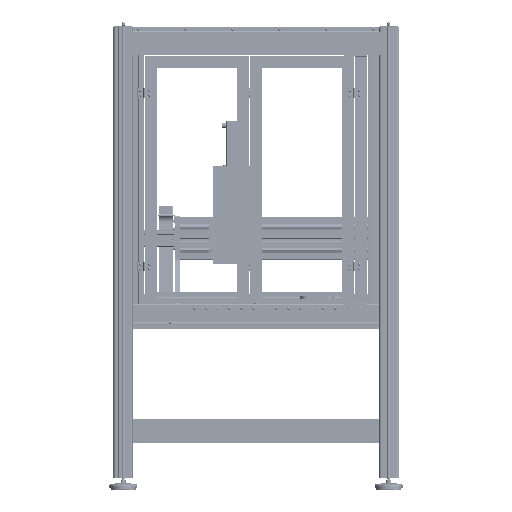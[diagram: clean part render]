
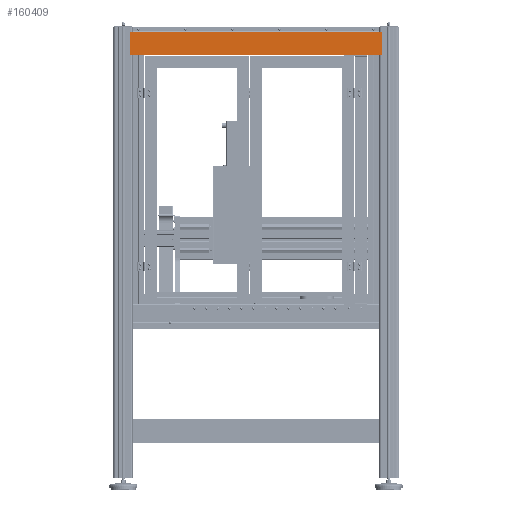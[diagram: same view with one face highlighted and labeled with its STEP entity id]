
A CAD part, top view. The second image highlights one B-rep face of the part: STEP entity #160409.
In plain terms, the highlighted planar face has unit normal (0, 0, 1).
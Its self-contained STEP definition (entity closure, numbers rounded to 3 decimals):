
#12218 = ORIENTED_EDGE ( 'NONE', *, *, #373988, .T. ) ;
#15874 = ORIENTED_EDGE ( 'NONE', *, *, #303480, .T. ) ;
#33881 = DIRECTION ( 'NONE',  ( 1., 0., 0. ) ) ;
#36627 = EDGE_LOOP ( 'NONE', ( #353214, #15874, #203593, #138550, #504336, #12218, #615992, #286641 ) ) ;
#39211 = CARTESIAN_POINT ( 'NONE',  ( -524., 1069.6, 600.499 ) ) ;
#58991 = CARTESIAN_POINT ( 'NONE',  ( 524., 1165.9, 600.499 ) ) ;
#60257 = FACE_OUTER_BOUND ( 'NONE', #36627, .T. ) ;
#81245 = DIRECTION ( 'NONE',  ( 1., 0., 0. ) ) ;
#138550 = ORIENTED_EDGE ( 'NONE', *, *, #326676, .T. ) ;
#151658 = VERTEX_POINT ( 'NONE', #39211 ) ;
#152283 = AXIS2_PLACEMENT_3D ( 'NONE', #673043, #353304, #33881 ) ;
#160409 = ADVANCED_FACE ( 'NONE', ( #60257 ), #619361, .F. ) ;
#160603 = CARTESIAN_POINT ( 'NONE',  ( 534., 1069.6, 600.499 ) ) ;
#165256 = EDGE_CURVE ( 'NONE', #151658, #420683, #261364, .T. ) ;
#182166 = CARTESIAN_POINT ( 'NONE',  ( 524., 1165.9, 600.499 ) ) ;
#203593 = ORIENTED_EDGE ( 'NONE', *, *, #362481, .T. ) ;
#211755 = VERTEX_POINT ( 'NONE', #425844 ) ;
#228961 = CARTESIAN_POINT ( 'NONE',  ( -534., 1069.6, 600.499 ) ) ;
#232720 = EDGE_CURVE ( 'NONE', #408250, #547780, #395429, .T. ) ;
#256009 = DIRECTION ( 'NONE',  ( 1., 0., 0. ) ) ;
#256599 = VECTOR ( 'NONE', #256009, 1000. ) ;
#261364 = LINE ( 'NONE', #521699, #256599 ) ;
#264955 = VERTEX_POINT ( 'NONE', #160603 ) ;
#278412 = LINE ( 'NONE', #58991, #578876 ) ;
#284254 = VECTOR ( 'NONE', #320789, 1000. ) ;
#286641 = ORIENTED_EDGE ( 'NONE', *, *, #501126, .T. ) ;
#295872 = CARTESIAN_POINT ( 'NONE',  ( -524., 1069.6, 600.499 ) ) ;
#300274 = DIRECTION ( 'NONE',  ( 0., 1., 0. ) ) ;
#301606 = CARTESIAN_POINT ( 'NONE',  ( 524., 1069.6, 600.499 ) ) ;
#303480 = EDGE_CURVE ( 'NONE', #420683, #264955, #446032, .T. ) ;
#304226 = VECTOR ( 'NONE', #462462, 1000. ) ;
#320789 = DIRECTION ( 'NONE',  ( 1., 0., 0. ) ) ;
#326676 = EDGE_CURVE ( 'NONE', #679234, #654183, #278412, .T. ) ;
#330518 = CARTESIAN_POINT ( 'NONE',  ( -524., 1165.9, 600.499 ) ) ;
#338526 = DIRECTION ( 'NONE',  ( 0., -1., 0. ) ) ;
#353214 = ORIENTED_EDGE ( 'NONE', *, *, #165256, .T. ) ;
#353304 = DIRECTION ( 'NONE',  ( 0., 0., -1. ) ) ;
#362481 = EDGE_CURVE ( 'NONE', #264955, #679234, #556536, .T. ) ;
#373988 = EDGE_CURVE ( 'NONE', #211755, #408250, #557809, .T. ) ;
#379439 = CARTESIAN_POINT ( 'NONE',  ( 534., 1165.9, 600.499 ) ) ;
#391617 = VECTOR ( 'NONE', #338526, 1000. ) ;
#395429 = LINE ( 'NONE', #228961, #391617 ) ;
#408250 = VERTEX_POINT ( 'NONE', #600589 ) ;
#414704 = VECTOR ( 'NONE', #300274, 1000. ) ;
#419322 = CARTESIAN_POINT ( 'NONE',  ( 524., 1069.6, 600.499 ) ) ;
#420683 = VERTEX_POINT ( 'NONE', #419322 ) ;
#425478 = LINE ( 'NONE', #295872, #567408 ) ;
#425844 = CARTESIAN_POINT ( 'NONE',  ( -524., 1165.9, 600.499 ) ) ;
#432141 = DIRECTION ( 'NONE',  ( -1., 0., 0. ) ) ;
#437732 = DIRECTION ( 'NONE',  ( -1., 0., 0. ) ) ;
#446032 = LINE ( 'NONE', #301606, #304226 ) ;
#451144 = EDGE_CURVE ( 'NONE', #211755, #654183, #584615, .T. ) ;
#462462 = DIRECTION ( 'NONE',  ( 1., 0., 0. ) ) ;
#501126 = EDGE_CURVE ( 'NONE', #547780, #151658, #425478, .T. ) ;
#504336 = ORIENTED_EDGE ( 'NONE', *, *, #451144, .F. ) ;
#512368 = CARTESIAN_POINT ( 'NONE',  ( 534., 1069.6, 600.499 ) ) ;
#521699 = CARTESIAN_POINT ( 'NONE',  ( -524., 1069.6, 600.499 ) ) ;
#547780 = VERTEX_POINT ( 'NONE', #669696 ) ;
#556536 = LINE ( 'NONE', #512368, #414704 ) ;
#557809 = LINE ( 'NONE', #330518, #683103 ) ;
#567408 = VECTOR ( 'NONE', #81245, 1000. ) ;
#578876 = VECTOR ( 'NONE', #432141, 1000. ) ;
#584615 = LINE ( 'NONE', #640333, #284254 ) ;
#600589 = CARTESIAN_POINT ( 'NONE',  ( -534., 1165.9, 600.499 ) ) ;
#615992 = ORIENTED_EDGE ( 'NONE', *, *, #232720, .T. ) ;
#619361 = PLANE ( 'NONE',  #152283 ) ;
#640333 = CARTESIAN_POINT ( 'NONE',  ( 524., 1165.9, 600.499 ) ) ;
#654183 = VERTEX_POINT ( 'NONE', #182166 ) ;
#669696 = CARTESIAN_POINT ( 'NONE',  ( -534., 1069.6, 600.499 ) ) ;
#673043 = CARTESIAN_POINT ( 'NONE',  ( 524., 1066.5, 600.499 ) ) ;
#679234 = VERTEX_POINT ( 'NONE', #379439 ) ;
#683103 = VECTOR ( 'NONE', #437732, 1000. ) ;
